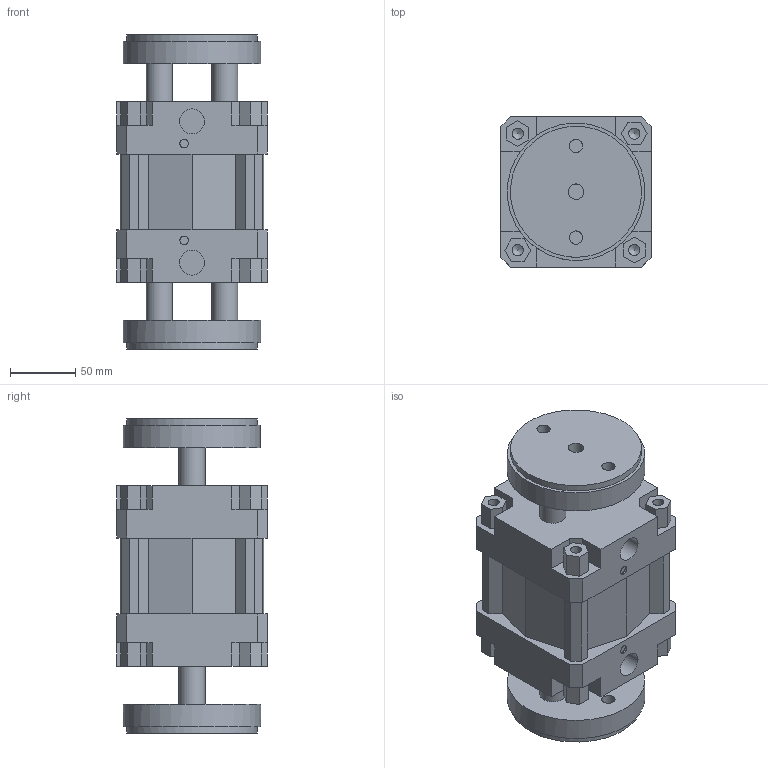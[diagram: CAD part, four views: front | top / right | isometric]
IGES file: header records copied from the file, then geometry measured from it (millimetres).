
Global section: file name: 132#_100_0000_06; native system: Autodesk Inventor 2014; preprocessor: unknown; author: A. Manieri; date: 20161006.163556; units: millimetre
Bounding box: 115 x 115 x 240 mm (x, y, z)
Volume: 1966624.1 mm3; surface area: 251214.4 mm2
Topology: 2 solids, 2 shells, 190 faces, 518 edges, 354 vertices
Faces by surface type: bspline 190
